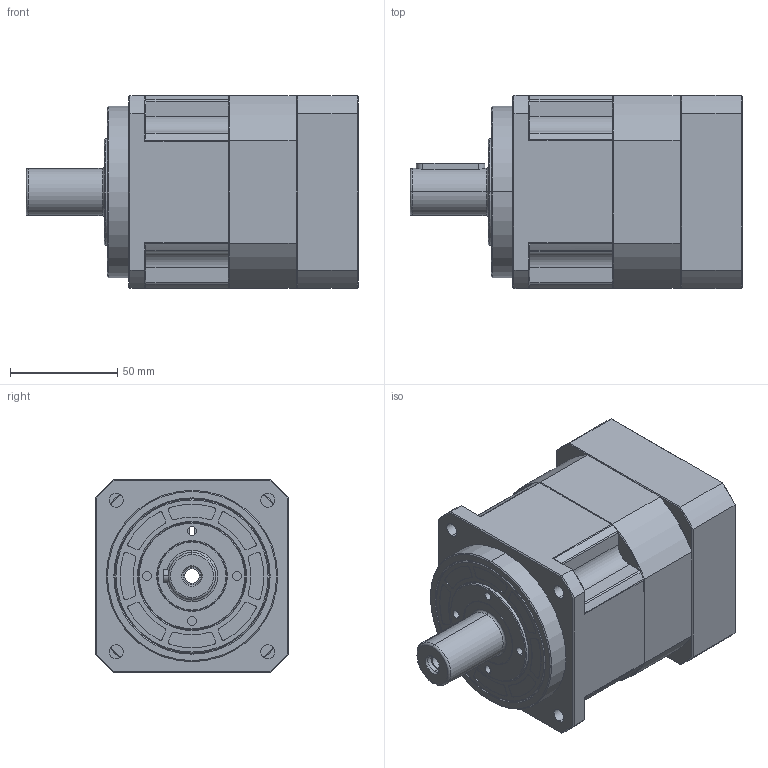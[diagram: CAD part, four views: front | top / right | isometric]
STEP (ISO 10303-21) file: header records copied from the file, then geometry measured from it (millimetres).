
FILE_DESCRIPTION (( 'STEP AP203' ), '1' );
FILE_NAME ('AKB90-3B-70-19-48-M5-90.STEP', '2020-08-11T07:46:43', ( '微软用户' ), ( '微软中国' ), 'SwSTEP 2.0', 'SolidWorks 2008', '' );
FILE_SCHEMA (( 'CONFIG_CONTROL_DESIGN' ));
Length unit declared in the file: millimetre
Products named in the file (1): AKB90-3B-70-19-48-M5-90
Bounding box: 155 x 90 x 90 mm (x, y, z)
Surface area: 81508.7 mm2 (no closed solid volume)
Topology: 0 solids, 19 shells, 413 faces, 1226 edges, 823 vertices
Faces by surface type: cylinder 162, plane 162, cone 66, torus 23
Entity records: 14346 total; most frequent: CARTESIAN_POINT 3080, DIRECTION 2464, ORIENTED_EDGE 2153, EDGE_CURVE 1226, AXIS2_PLACEMENT_3D 949, VERTEX_POINT 823, VECTOR 566, LINE 566
